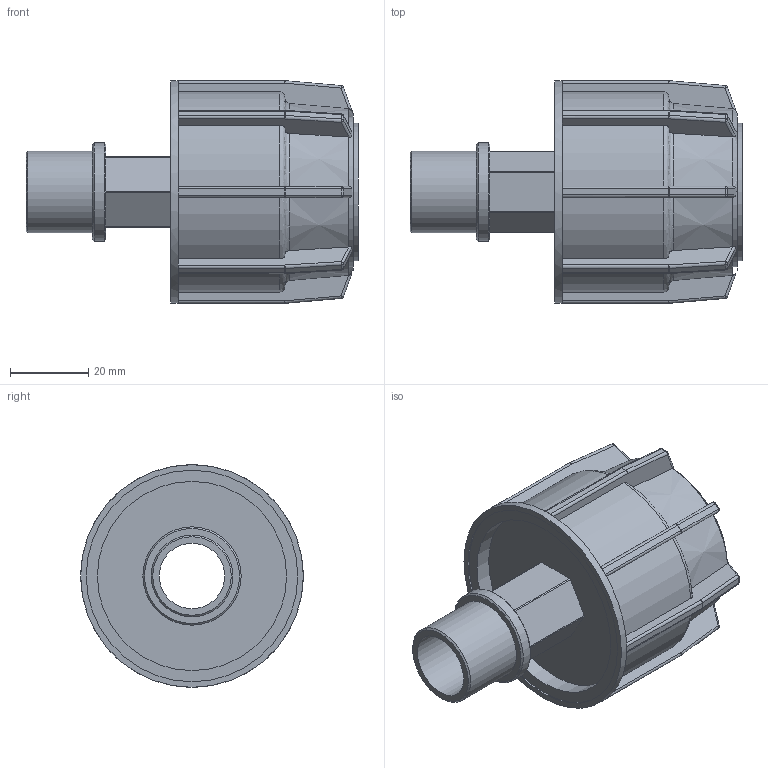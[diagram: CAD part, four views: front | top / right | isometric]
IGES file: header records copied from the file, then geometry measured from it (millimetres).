
Global section: file name: 040207032007.ipt; native system: Autodesk Inventor 2015; preprocessor: unknown; author: KIM; date: 20180409.130629; units: millimetre
Bounding box: 85 x 57 x 57 mm (x, y, z)
Volume: 56466 mm3; surface area: 24477 mm2
Topology: 1 solids, 1 shells, 283 faces, 676 edges, 395 vertices
Faces by surface type: plane 142, cylinder 76, sphere 32, revolution 22, cone 11
Full cylindrical faces by diameter (mm): 20.955 x1, 25.146 x1, 35.2 x1, 57 x1
